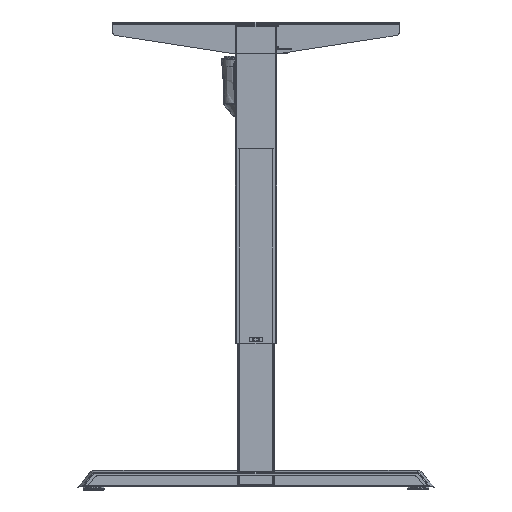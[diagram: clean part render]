
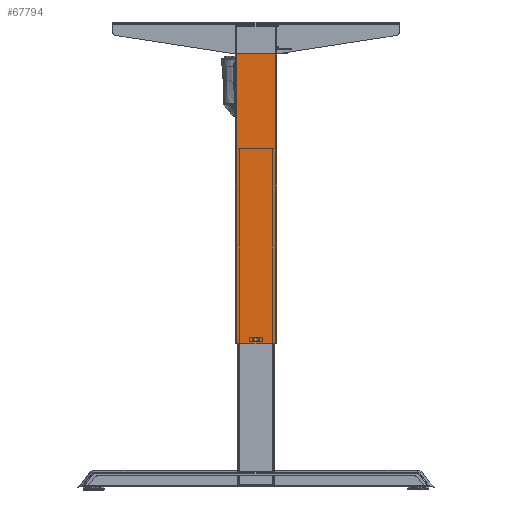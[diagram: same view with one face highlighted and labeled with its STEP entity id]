
A CAD part, left-side view. The second image highlights one B-rep face of the part: STEP entity #67794.
In plain terms, the highlighted planar face has unit normal (-1, 0, 0).
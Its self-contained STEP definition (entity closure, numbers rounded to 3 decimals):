
#1468 = VECTOR ( 'NONE', #26934, 1000. ) ;
#1920 = VECTOR ( 'NONE', #67630, 1000. ) ;
#2173 = EDGE_CURVE ( 'NONE', #15586, #13095, #12281, .T. ) ;
#2310 = ORIENTED_EDGE ( 'NONE', *, *, #37973, .T. ) ;
#3001 = LINE ( 'NONE', #71448, #42466 ) ;
#3266 = EDGE_CURVE ( 'NONE', #18257, #13095, #48212, .T. ) ;
#4419 = VERTEX_POINT ( 'NONE', #14179 ) ;
#4715 = VERTEX_POINT ( 'NONE', #11902 ) ;
#5823 = ORIENTED_EDGE ( 'NONE', *, *, #31093, .F. ) ;
#11902 = CARTESIAN_POINT ( 'NONE',  ( -30., 6., 10. ) ) ;
#12281 = LINE ( 'NONE', #43079, #14972 ) ;
#13095 = VERTEX_POINT ( 'NONE', #15309 ) ;
#13379 = FACE_OUTER_BOUND ( 'NONE', #48780, .T. ) ;
#13581 = ORIENTED_EDGE ( 'NONE', *, *, #62568, .T. ) ;
#14179 = CARTESIAN_POINT ( 'NONE',  ( -30., 37., 609. ) ) ;
#14877 = VECTOR ( 'NONE', #15441, 1000. ) ;
#14955 = CARTESIAN_POINT ( 'NONE',  ( -30., 6., 10. ) ) ;
#14972 = VECTOR ( 'NONE', #48753, 1000. ) ;
#15309 = CARTESIAN_POINT ( 'NONE',  ( -30., -37., 0. ) ) ;
#15441 = DIRECTION ( 'NONE',  ( 0., 0., 1. ) ) ;
#15586 = VERTEX_POINT ( 'NONE', #49738 ) ;
#16300 = CARTESIAN_POINT ( 'NONE',  ( -30., 37., 0. ) ) ;
#17267 = ORIENTED_EDGE ( 'NONE', *, *, #42467, .T. ) ;
#18257 = VERTEX_POINT ( 'NONE', #72158 ) ;
#18353 = VECTOR ( 'NONE', #72422, 1000. ) ;
#25911 = EDGE_CURVE ( 'NONE', #32502, #4715, #40333, .T. ) ;
#26934 = DIRECTION ( 'NONE',  ( 0., 1., 0. ) ) ;
#27714 = ORIENTED_EDGE ( 'NONE', *, *, #72571, .T. ) ;
#31093 = EDGE_CURVE ( 'NONE', #4419, #15586, #3001, .T. ) ;
#32502 = VERTEX_POINT ( 'NONE', #62256 ) ;
#36614 = ORIENTED_EDGE ( 'NONE', *, *, #25911, .T. ) ;
#37651 = DIRECTION ( 'NONE',  ( 0., -1., 0. ) ) ;
#37973 = EDGE_CURVE ( 'NONE', #4715, #59067, #61419, .T. ) ;
#38761 = CARTESIAN_POINT ( 'NONE',  ( -30., 6., 10. ) ) ;
#40319 = ORIENTED_EDGE ( 'NONE', *, *, #3266, .T. ) ;
#40333 = LINE ( 'NONE', #14955, #14877 ) ;
#42466 = VECTOR ( 'NONE', #37651, 1000. ) ;
#42467 = EDGE_CURVE ( 'NONE', #59067, #47699, #45390, .T. ) ;
#42527 = CARTESIAN_POINT ( 'NONE',  ( -30., -6., 10. ) ) ;
#42937 = EDGE_LOOP ( 'NONE', ( #36614, #2310, #17267, #13581 ) ) ;
#43079 = CARTESIAN_POINT ( 'NONE',  ( -30., -37., 614. ) ) ;
#45390 = LINE ( 'NONE', #42527, #70137 ) ;
#46648 = FACE_BOUND ( 'NONE', #42937, .T. ) ;
#47699 = VERTEX_POINT ( 'NONE', #48350 ) ;
#48205 = DIRECTION ( 'NONE',  ( 0., 0., -1. ) ) ;
#48212 = LINE ( 'NONE', #16300, #18353 ) ;
#48350 = CARTESIAN_POINT ( 'NONE',  ( -30., -6., 6. ) ) ;
#48656 = AXIS2_PLACEMENT_3D ( 'NONE', #49030, #54679, #60635 ) ;
#48753 = DIRECTION ( 'NONE',  ( 0., 0., -1. ) ) ;
#48780 = EDGE_LOOP ( 'NONE', ( #71755, #5823, #27714, #40319 ) ) ;
#49030 = CARTESIAN_POINT ( 'NONE',  ( -30., 37., 614. ) ) ;
#49738 = CARTESIAN_POINT ( 'NONE',  ( -30., -37., 609. ) ) ;
#53768 = LINE ( 'NONE', #55987, #1920 ) ;
#54679 = DIRECTION ( 'NONE',  ( 1., 0., 0. ) ) ;
#54719 = CARTESIAN_POINT ( 'NONE',  ( -30., 6., 6. ) ) ;
#55166 = PLANE ( 'NONE',  #48656 ) ;
#55987 = CARTESIAN_POINT ( 'NONE',  ( -30., 37., 614. ) ) ;
#59067 = VERTEX_POINT ( 'NONE', #69080 ) ;
#60635 = DIRECTION ( 'NONE',  ( 0., 1., 0. ) ) ;
#61419 = LINE ( 'NONE', #38761, #63216 ) ;
#62256 = CARTESIAN_POINT ( 'NONE',  ( -30., 6., 6. ) ) ;
#62568 = EDGE_CURVE ( 'NONE', #47699, #32502, #71898, .T. ) ;
#63216 = VECTOR ( 'NONE', #66923, 1000. ) ;
#66923 = DIRECTION ( 'NONE',  ( 0., -1., 0. ) ) ;
#67630 = DIRECTION ( 'NONE',  ( 0., 0., -1. ) ) ;
#67794 = ADVANCED_FACE ( 'NONE', ( #46648, #13379 ), #55166, .F. ) ;
#69080 = CARTESIAN_POINT ( 'NONE',  ( -30., -6., 10. ) ) ;
#70137 = VECTOR ( 'NONE', #48205, 1000. ) ;
#71448 = CARTESIAN_POINT ( 'NONE',  ( -30., 40., 609. ) ) ;
#71755 = ORIENTED_EDGE ( 'NONE', *, *, #2173, .F. ) ;
#71898 = LINE ( 'NONE', #54719, #1468 ) ;
#72158 = CARTESIAN_POINT ( 'NONE',  ( -30., 37., 0. ) ) ;
#72422 = DIRECTION ( 'NONE',  ( 0., -1., 0. ) ) ;
#72571 = EDGE_CURVE ( 'NONE', #4419, #18257, #53768, .T. ) ;
